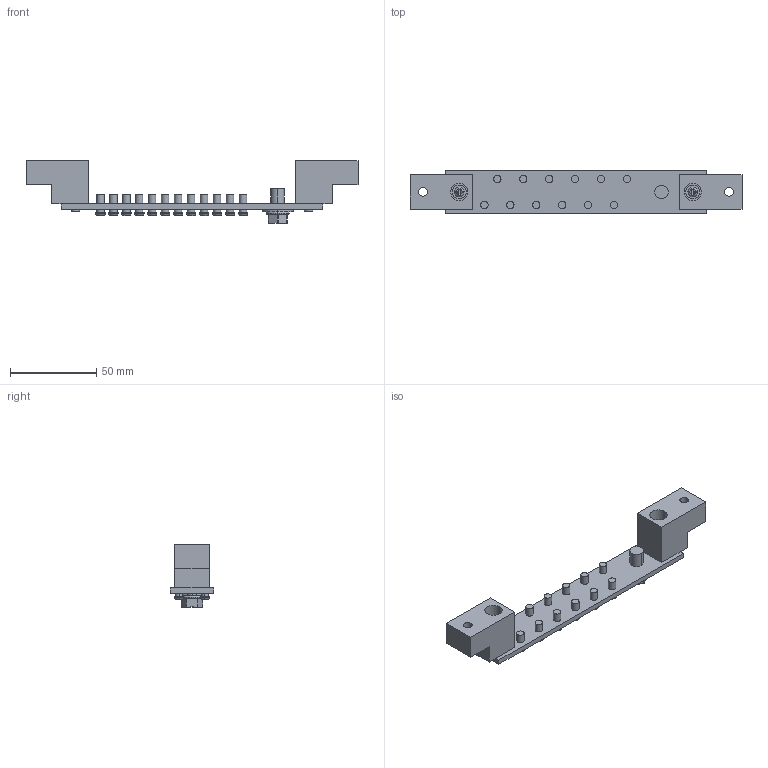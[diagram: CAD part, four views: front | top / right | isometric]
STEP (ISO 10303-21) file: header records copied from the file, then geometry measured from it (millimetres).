
FILE_DESCRIPTION(('Creo Elements/Direct Modeling STEP Export'),'2;1');
FILE_NAME('13N.stp','2025-07-23T16:26:07',(''),(''),'PTC Creo Elements/Direct Modeling STEP processor for AP214 (Solid Model)','PTC Creo Elements/Direct Modeling 19.0 09-May-2014 (C) Parametric Technology GmbH','');
FILE_SCHEMA(('AUTOMOTIVE_DESIGN { 1 0 10303 214 1 1 1 1 }'));
Length unit declared in the file: millimetre
Products named in the file (19): QUILT_3-34740.PRT; QUILT_2-34360.PRT; QUILT_1-14960.PRT; USER_LIBRARY-SAN_ZU_HE_LUO-2060.PRT; M5_1_1_1_1_1_1_1_1_2.ASM; SCREW_1_2_PRT.PRT; SCREW_1_1_PRT.PRT; SCREW_1_ASM.ASM; SCREW_0723_STP.ASM; A1.ASM; HOLD_1.PRT; CU.PRT; QUILT_3-85900.PRT; QUILT_2-85520.PRT; QUILT_1-66120.PRT; USER_LIBRARY-SAN_ZU_HE_LU-53220.PRT; M5_1_1_1_1_1_1_1_1_1_1_1_1_1_1.ASM; 17N_1.ASM; 13N
Assembly tree (31 placements, depth 5):
  13N
    17N_1.ASM
      M5_1_1_1_1_1_1_1_1_1_1_1_1_1_1.ASM  x2
        USER_LIBRARY-SAN_ZU_HE_LU-53220.PRT
        QUILT_1-66120.PRT
        QUILT_2-85520.PRT
        QUILT_3-85900.PRT
      CU.PRT
      HOLD_1.PRT  x2
      M5_1_1_1_1_1_1_1_1_2.ASM  x6
        USER_LIBRARY-SAN_ZU_HE_LUO-2060.PRT
        QUILT_1-14960.PRT
        QUILT_2-34360.PRT
        QUILT_3-34740.PRT
      A1.ASM
        M5_1_1_1_1_1_1_1_1_2.ASM  x6
          USER_LIBRARY-SAN_ZU_HE_LUO-2060.PRT
          QUILT_1-14960.PRT
          QUILT_2-34360.PRT
          QUILT_3-34740.PRT
      SCREW_0723_STP.ASM
        SCREW_1_ASM.ASM
          SCREW_1_1_PRT.PRT
          SCREW_1_2_PRT.PRT
Bounding box: 192 x 25 x 36.2 mm (x, y, z)
Volume: 39393.6 mm3; surface area: 24731.7 mm2
Topology: 33 solids, 33 shells, 666 faces, 1676 edges, 1098 vertices
Faces by surface type: plane 374, cylinder 232, torus 60
Entity records: 6606 total; most frequent: CARTESIAN_POINT 1059, DIRECTION 918, ORIENTED_EDGE 916, EDGE_CURVE 458, AXIS2_PLACEMENT_3D 339, VERTEX_POINT 302, VECTOR 240, LINE 240
